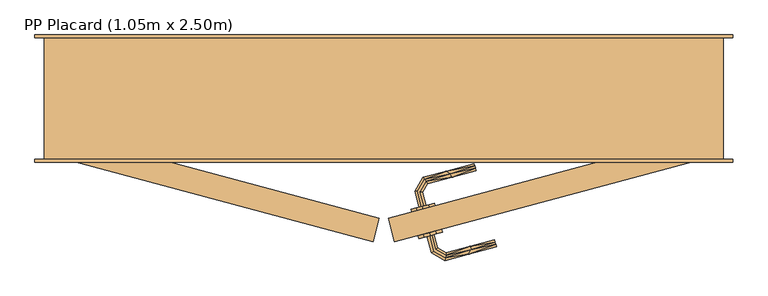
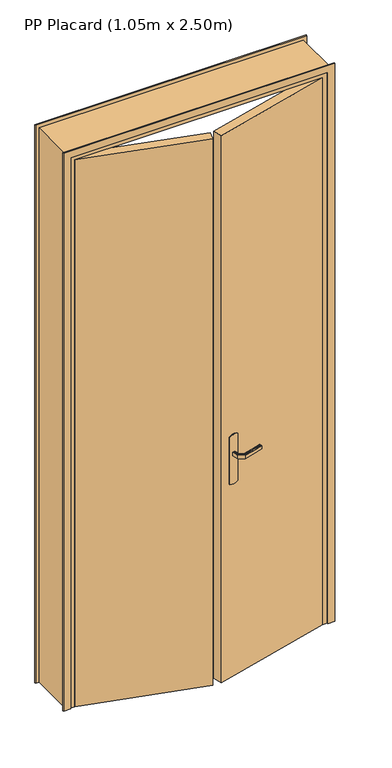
"""IFC4 building model written with IfcOpenShell, lengths in millimetres: door geometry, PP Placard (1.05m x 2.50m)."""

from ifc_helpers import new_model, si_unit, frame, origin, origin_with_axes, place, context, project, spatial, polyline, outline, extrude, faceted_brep, source, transform, mapped, element, save


def pp_placard_1_05m_x_2_50m_9c49e070(model_context):
    return source(origin(), model_context, "Body", "SolidModel", [
        extrude(outline(polyline([(567.5361794, -97.2429656), (1074.6472382, 38.6370331), (1085.0, 0.0), (577.8889412, -135.8799987), (567.5361794, -97.2429656)])), origin_with_axes(), (0.0, 0.0, 1.0), 2450.0),
        extrude(outline(polyline([(0.0, 0.0), (3.0658951, 9.9818657), (212.1249722, 29.8389109), (217.015302, 20.6127508), (219.3510918, 10.4352539), (218.9731616, 0.0), (215.9072666, -9.9818658), (6.8481894, -29.8389109), (1.9578596, -20.6127507), (-0.3779302, -10.4352539), (0.0, 0.0)])), frame((635.491729, -79.034331, 866.0039831), z_axis=(-0.2588190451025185, 0.965925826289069, 0.0), x_axis=(-0.09133539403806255, -0.024473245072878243, 0.9955194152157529)), (0.0, 0.0, 1.0), 5.0),
        extrude(outline(polyline([(552.4638206, -97.2429656), (542.1110588, -135.8799987), (35.0, 0.0), (45.3527618, 38.6370331), (552.4638206, -97.2429656)])), origin_with_axes(), (0.0, 0.0, 1.0), 2450.0),
        extrude(outline(polyline([(0.0, -15.0), (0.0, 15.0), (2470.0, 15.0), (2470.0, 1105.0), (0.0, 1105.0), (0.0, 1135.0), (2500.0, 1135.0), (2500.0, -15.0), (0.0, -15.0)])), frame((0.0, -5.0, 0.0), z_axis=(0.0, 1.0, 0.0), x_axis=(0.0, 0.0, 1.0)), (0.0, 0.0, 1.0), 5.0),
        extrude(outline(polyline([(0.0, -15.0), (0.0, 15.0), (2470.0, 15.0), (2470.0, 1105.0), (0.0, 1105.0), (0.0, 1135.0), (2500.0, 1135.0), (2500.0, -15.0), (0.0, -15.0)])), frame((0.0, 200.0, 0.0), z_axis=(0.0, 1.0, 0.0), x_axis=(0.0, 0.0, 1.0)), (0.0, 0.0, 1.0), 5.0),
        faceted_brep([(0.0, 0.0, 0.0), (0.0, 200.0, 0.0), (50.0, 200.0, 0.0), (50.0, 40.0, 0.0), (35.0, 40.0, 0.0), (35.0, 0.0, 0.0), (0.0, 0.0, 2485.0), (0.0, 200.0, 2485.0), (1120.0, 200.0, 2485.0), (1120.0, 200.0, 0.0), (1070.0, 200.0, 0.0), (1070.0, 200.0, 2435.0), (50.0, 200.0, 2435.0), (50.0, 40.0, 2435.0), (1070.0, 40.0, 2435.0), (1070.0, 40.0, 0.0), (1085.0, 40.0, 0.0), (1085.0, 40.0, 2450.0), (35.0, 40.0, 2450.0), (35.0, 0.0, 2450.0), (1085.0, 0.0, 2450.0), (1085.0, 0.0, 0.0), (1120.0, 0.0, 0.0), (1120.0, 0.0, 2485.0)], [[[0, 1, 2, 3, 4, 5]], [[1, 0, 6, 7]], [[2, 1, 7, 8, 9, 10, 11, 12]], [[3, 2, 12, 13]], [[4, 3, 13, 14, 15, 16, 17, 18]], [[5, 4, 18, 19]], [[0, 5, 19, 20, 21, 22, 23, 6]], [[8, 23, 22, 9]], [[22, 21, 16, 15, 10, 9]], [[14, 11, 10, 15]], [[20, 17, 16, 21]], [[7, 6, 23, 8]], [[13, 12, 11, 14]], [[19, 18, 17, 20]]]),
        faceted_brep([(622.2413455, -77.4083797, 1007.7804408), (618.4020788, -78.4371081, 1007.0), (618.4020788, -78.4371081, 993.0), (622.2413455, -77.4083797, 992.2195592), (626.153922, -76.3600079, 992.2195592), (629.9931887, -75.3312795, 993.0), (629.9931887, -75.3312795, 1007.0), (626.153922, -76.3600079, 1007.7804408), (624.1735895, -53.6122398, 993.0), (624.1735895, -53.6122398, 1007.0), (619.9082096, -53.0506919, 1007.7804408), (629.6759052, -36.1325469, 1007.7804408), (627.0068911, -32.6542201, 1007.7804408), (615.5613833, -52.4784213, 1007.7804408), (611.2960033, -51.9168734, 1007.0), (611.2960033, -51.9168734, 993.0), (615.5613833, -52.4784213, 992.2195592), (627.0068911, -32.6542201, 992.2195592), (629.6759052, -36.1325469, 992.2195592), (619.9082096, -53.0506919, 992.2195592), (632.2949099, -39.5457003, 993.0), (632.2949099, -39.5457003, 1007.0), (624.3878864, -29.2410667, 1007.0), (624.3878864, -29.2410667, 993.0), (712.0422313, -18.17747, 993.0), (711.0135029, -14.3382033, 992.2195592), (709.9651311, -10.4256267, 992.2195592), (708.9364027, -6.58636, 993.0), (708.9364027, -6.58636, 1007.0), (709.9651311, -10.4256267, 1007.7804408), (711.0135029, -14.3382033, 1007.7804408), (712.0422313, -18.17747, 1007.0), (672.1685591, -28.8615882, 993.0), (672.1685706, -28.8615851, 1007.0), (669.8205181, -23.2790868, 1007.8786868), (662.9577752, -18.9062961, 1007.0), (662.9577738, -18.9062965, 993.0), (669.8205184, -23.2790868, 992.1213132)], [[[0, 1, 2, 3, 4, 5, 6, 7]], [[6, 5, 8, 9]], [[9, 10, 7, 6]], [[10, 11, 12, 13, 0, 7]], [[13, 14, 1, 0]], [[2, 1, 14, 15]], [[15, 16, 3, 2]], [[16, 17, 18, 19, 4, 3]], [[19, 8, 5, 4]], [[9, 8, 20, 21]], [[21, 11, 10, 9]], [[12, 22, 14, 13]], [[15, 14, 22, 23]], [[23, 17, 16, 15]], [[18, 20, 8, 19]], [[24, 25, 26, 27, 28, 29, 30, 31]], [[21, 20, 32, 24, 31, 33]], [[33, 30, 34]], [[35, 34, 29]], [[21, 33, 11]], [[33, 31, 30]], [[28, 35, 29]], [[22, 12, 35]], [[35, 12, 34]], [[12, 11, 34]], [[11, 33, 34]], [[29, 34, 30]], [[22, 35, 28, 27, 36, 23]], [[36, 26, 37]], [[27, 26, 36]], [[17, 23, 36]], [[37, 32, 18]], [[20, 18, 32]], [[32, 25, 24]], [[26, 25, 37]], [[25, 32, 37]], [[17, 36, 37]], [[17, 37, 18]]]),
        faceted_brep([(635.1822977, -125.704671, 1007.7804408), (639.0948743, -124.6562992, 1007.7804408), (642.934141, -123.6275708, 1007.0), (642.934141, -123.6275708, 993.0), (639.0948743, -124.6562992, 992.2195592), (635.1822977, -125.704671, 992.2195592), (631.343031, -126.7333994, 993.0), (631.343031, -126.7333994, 1007.0), (638.4996237, -153.4421668, 1007.0), (641.9127771, -150.823162, 1007.7804408), (661.5685653, -162.1714366, 1007.7804408), (662.1408358, -157.8246103, 1007.7804408), (645.3911039, -148.154148, 1007.7804408), (648.8042573, -145.5351433, 1007.0), (648.8042573, -145.5351433, 993.0), (645.3911039, -148.154148, 992.2195592), (662.1408358, -157.8246103, 992.2195592), (661.5685653, -162.1714366, 992.2195592), (641.9127771, -150.823162, 992.2195592), (638.4996237, -153.4421668, 993.0), (661.0070174, -166.4368166, 1007.0), (662.7023838, -153.5592304, 1007.0), (662.7023838, -153.5592304, 993.0), (661.0070174, -166.4368166, 993.0), (745.6621387, -143.7535452, 993.0), (744.6334103, -139.9142785, 992.2195592), (743.5850385, -136.001702, 992.2195592), (742.5563101, -132.1624353, 993.0), (742.5563101, -132.1624353, 1007.0), (743.5850385, -136.001702, 1007.7804408), (744.6334103, -139.9142785, 1007.7804408), (745.6621387, -143.7535452, 1007.0), (699.5769063, -156.102046, 1007.0), (703.3871231, -148.8694444, 1007.8786868), (702.6293469, -142.8608328, 1007.0), (702.6293469, -142.8608328, 993.0), (703.3871229, -148.8694445, 992.1213132), (699.5769091, -156.1020452, 993.0)], [[[0, 1, 2, 3, 4, 5, 6, 7]], [[8, 9, 0, 7]], [[9, 10, 11, 12, 1, 0]], [[12, 13, 2, 1]], [[3, 2, 13, 14]], [[14, 15, 4, 3]], [[15, 16, 17, 18, 5, 4]], [[18, 19, 6, 5]], [[7, 6, 19, 8]], [[20, 10, 9, 8]], [[11, 21, 13, 12]], [[14, 13, 21, 22]], [[22, 16, 15, 14]], [[17, 23, 19, 18]], [[8, 19, 23, 20]], [[24, 25, 26, 27, 28, 29, 30, 31]], [[32, 30, 33]], [[31, 30, 32]], [[10, 20, 32]], [[33, 34, 11]], [[21, 11, 34]], [[34, 29, 28]], [[30, 29, 33]], [[29, 34, 33]], [[10, 32, 33]], [[10, 33, 11]], [[22, 21, 34, 28, 27, 35]], [[35, 26, 36]], [[37, 36, 25]], [[22, 35, 16]], [[35, 27, 26]], [[24, 37, 25]], [[23, 17, 37]], [[37, 17, 36]], [[17, 16, 36]], [[16, 35, 36]], [[25, 36, 26]], [[20, 23, 37, 24, 31, 32]]]),
        extrude(outline(polyline([(0.0, 0.0), (3.0658951, 9.9818657), (212.1249722, 29.8389109), (217.015302, 20.6127508), (219.3510918, 10.4352539), (218.9731616, 0.0), (215.9072666, -9.9818657), (6.8481894, -29.8389108), (1.9578596, -20.6127507), (-0.3779302, -10.4352539), (0.0, 0.0)])), frame((647.138586, -122.5009932, 866.0039831), z_axis=(-0.2588190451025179, 0.9659258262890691, 0.0), x_axis=(-0.09133539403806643, -0.024473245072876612, 0.9955194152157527)), (0.0, 0.0, 1.0), 5.0),
    ])


if __name__ == "__main__":
    model = new_model("IFC4")
    model_context = context("Model", 3, world=origin())
    ifc_project = project(units=[si_unit("LENGTHUNIT", "METRE", prefix="MILLI")], contexts=[model_context])
    site = spatial("IfcSite", under=ifc_project)
    building = spatial("IfcBuilding", under=site)
    placement = place(None, origin())
    pp_placard_1_05m_x_2_50m_shape = pp_placard_1_05m_x_2_50m_9c49e070(model_context)
    element("IfcDoor", 1, ObjectType="PP Placard (1.05m x 2.50m)", at=placement, inside=building, context=model_context, shape_type="MappedRepresentation", body=[
        mapped(pp_placard_1_05m_x_2_50m_shape, transform((0.0, 0.0, 0.0), x_axis=(1.0, 0.0, 0.0), y_axis=(0.0, 1.0, 0.0), z_axis=(0.0, 0.0, 1.0))),
    ])
    save(model, "model.ifc")
